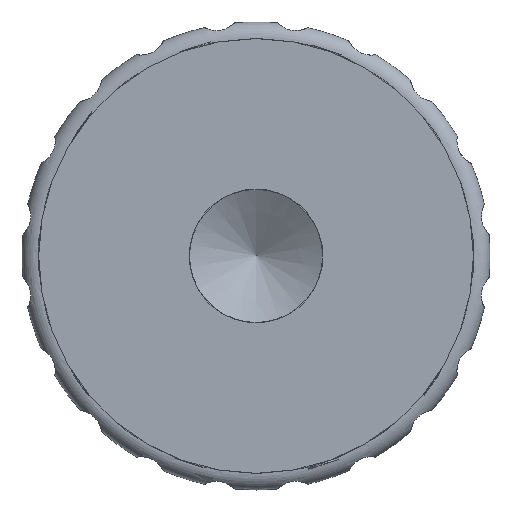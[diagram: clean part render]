
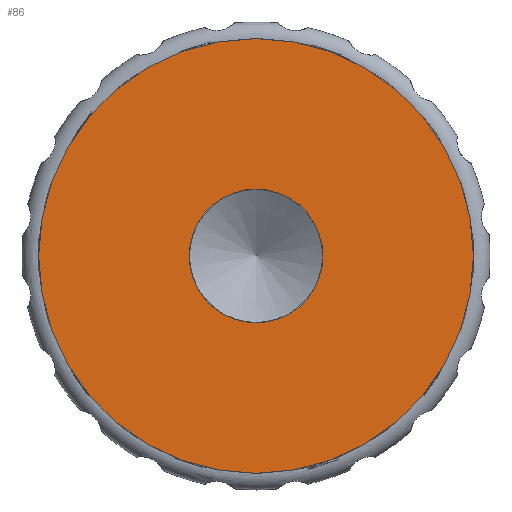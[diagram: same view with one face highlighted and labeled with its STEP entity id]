
A CAD part, left-side view. The second image highlights one B-rep face of the part: STEP entity #86.
In plain terms, the highlighted planar face has unit normal (-1, 0, 0).
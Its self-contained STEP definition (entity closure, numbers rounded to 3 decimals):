
#86 = ADVANCED_FACE( '', ( #439, #440 ), #441, .F. );
#439 = FACE_OUTER_BOUND( '', #1105, .T. );
#440 = FACE_BOUND( '', #1106, .T. );
#441 = PLANE( '', #1107 );
#1105 = EDGE_LOOP( '', ( #2011 ) );
#1106 = EDGE_LOOP( '', ( #2012 ) );
#1107 = AXIS2_PLACEMENT_3D( '', #2013, #2014, #2015 );
#2011 = ORIENTED_EDGE( '', *, *, #4336, .F. );
#2012 = ORIENTED_EDGE( '', *, *, #4461, .T. );
#2013 = CARTESIAN_POINT( '', ( 0., 4., 0. ) );
#2014 = DIRECTION( '', ( 1., 0., 0. ) );
#2015 = DIRECTION( '', ( 0., 0., -1. ) );
#4336 = EDGE_CURVE( '', #5242, #5242, #5243, .T. );
#4461 = EDGE_CURVE( '', #5492, #5492, #5493, .T. );
#5242 = VERTEX_POINT( '', #7233 );
#5243 = CIRCLE( '', #7234, 13. );
#5492 = VERTEX_POINT( '', #7679 );
#5493 = CIRCLE( '', #7680, 4. );
#7233 = CARTESIAN_POINT( '', ( 0., 0., -13. ) );
#7234 = AXIS2_PLACEMENT_3D( '', #9396, #9397, #9398 );
#7679 = CARTESIAN_POINT( '', ( 0., 0., -4. ) );
#7680 = AXIS2_PLACEMENT_3D( '', #9598, #9599, #9600 );
#9396 = CARTESIAN_POINT( '', ( 0., 0., 0. ) );
#9397 = DIRECTION( '', ( 1., 0., 0. ) );
#9398 = DIRECTION( '', ( 0., 0., -1. ) );
#9598 = CARTESIAN_POINT( '', ( 0., 0., 0. ) );
#9599 = DIRECTION( '', ( 1., 0., 0. ) );
#9600 = DIRECTION( '', ( 0., 0., -1. ) );
